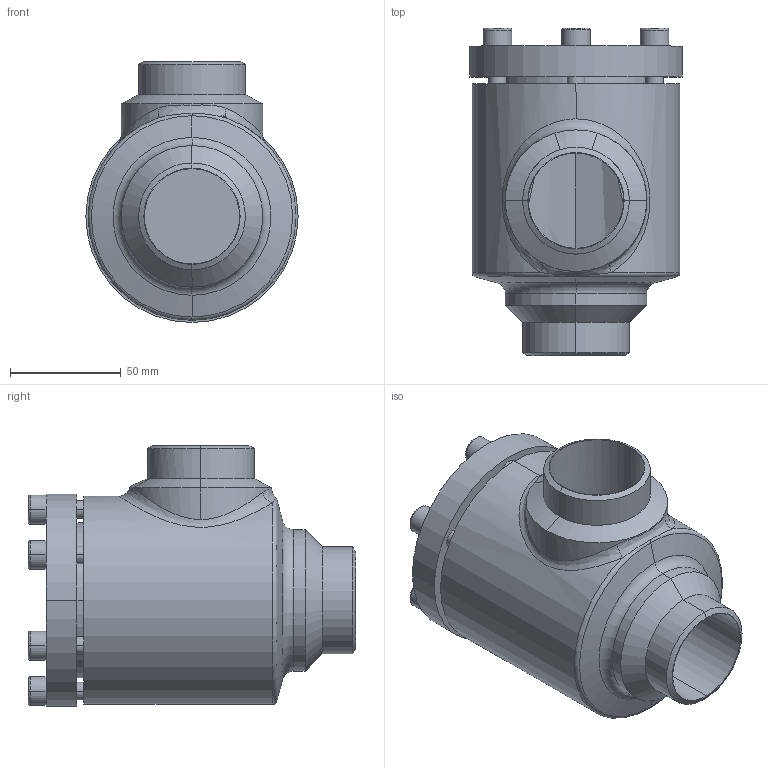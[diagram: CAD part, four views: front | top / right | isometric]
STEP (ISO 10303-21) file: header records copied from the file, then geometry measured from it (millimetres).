
FILE_DESCRIPTION (( 'STEP AP214' ), '1' );
FILE_NAME ('SS52400D14-DN040_R1_PS40.STEP', '2006-05-02T05:51:22', ( 'Herr Grams' ), ( 'AWP GmbH' ), 'SwSTEP 2.0', 'SolidWorks 2002296', '' );
FILE_SCHEMA (( 'AUTOMOTIVE_DESIGN' ));
Length unit declared in the file: millimetre
Products named in the file (5): SS52400D14-DN040_R1_PS40; SS52300E15_Deck+Schr-DN40-50_Standard; Deckel52300E15-DN40-50_Standard; Zylinderschraube-DIN912_M 8x 25; Gehäuse16400-DN040_Standard
Assembly tree (9 placements, depth 3):
  SS52400D14-DN040_R1_PS40
    Gehäuse16400-DN040_Standard
    SS52300E15_Deck+Schr-DN40-50_Standard
      Zylinderschraube-DIN912_M 8x 25  x6
      Deckel52300E15-DN40-50_Standard
Bounding box: 96 x 148 x 118 mm (x, y, z)
Volume: 457211 mm3; surface area: 102452.5 mm2
Topology: 8 solids, 8 shells, 175 faces, 383 edges, 239 vertices
Faces by surface type: plane 72, cylinder 59, cone 25, torus 16, bspline 3
Entity records: 12357 total; most frequent: CARTESIAN_POINT 9955, DIRECTION 467, ORIENTED_EDGE 386, AXIS2_PLACEMENT_3D 198, EDGE_CURVE 193, VERTEX_POINT 119, EDGE_LOOP 106, CIRCLE 103
